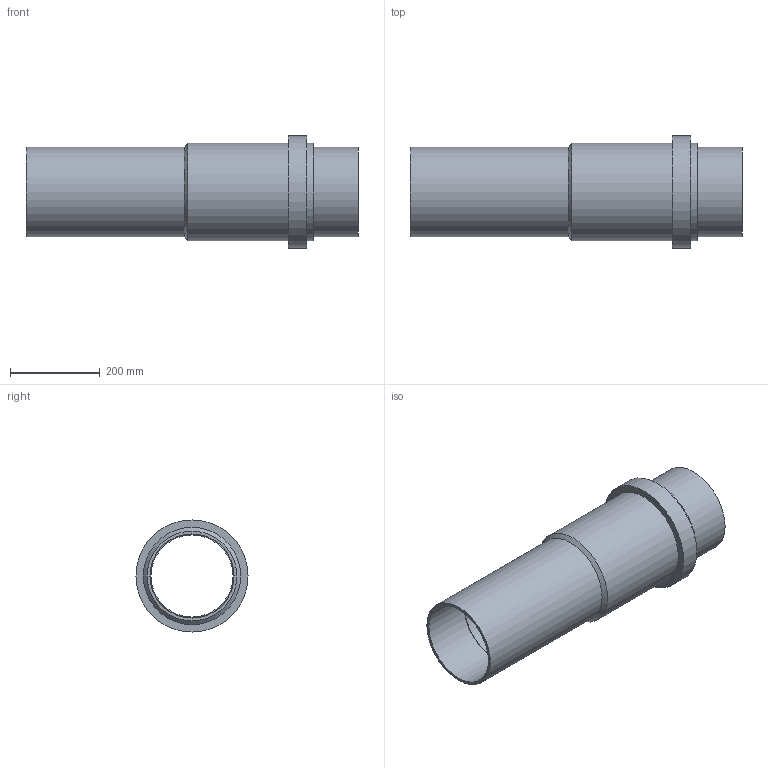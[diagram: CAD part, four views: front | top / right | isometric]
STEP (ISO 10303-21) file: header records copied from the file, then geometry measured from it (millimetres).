
FILE_DESCRIPTION(/* description */ (''),/* implementation_level */ '2;1');
FILE_NAME(/* name */ 'Z:\Geberit\Export\NewStep\370701.stp',/* time_stamp */ '2014-04-02T08:04:24+02:00',/* author */ ('nelson'),/* organization */ (''),/* preprocessor_version */ 'ST-DEVELOPER v15.2',/* originating_system */ 'Autodesk Inventor 2014',/* authorisation */ '');
FILE_SCHEMA (('AUTOMOTIVE_DESIGN { 1 0 10303 214 3 1 1 }'));
Length unit declared in the file: millimetre
Products named in the file (1): 370701
Bounding box: 739.95 x 250 x 250 mm (x, y, z)
Volume: 4460923.9 mm3; surface area: 1730457.4 mm2
Topology: 2 solids, 2 shells, 33 faces, 60 edges, 35 vertices
Faces by surface type: cylinder 16, plane 8, cone 6, torus 3
Full cylindrical faces by diameter (mm): 182.8 x2, 185.8 x2, 187.6 x2, 190 x2, 200 x2, 204.5 x2, 216.9 x2, 232.5 x1, 250 x1
Entity records: 692 total; most frequent: DIRECTION 134, CARTESIAN_POINT 100, AXIS2_PLACEMENT_3D 67, EDGE_LOOP 66, ORIENTED_EDGE 66, FACE_BOUND 37, CIRCLE 33, VERTEX_POINT 33
